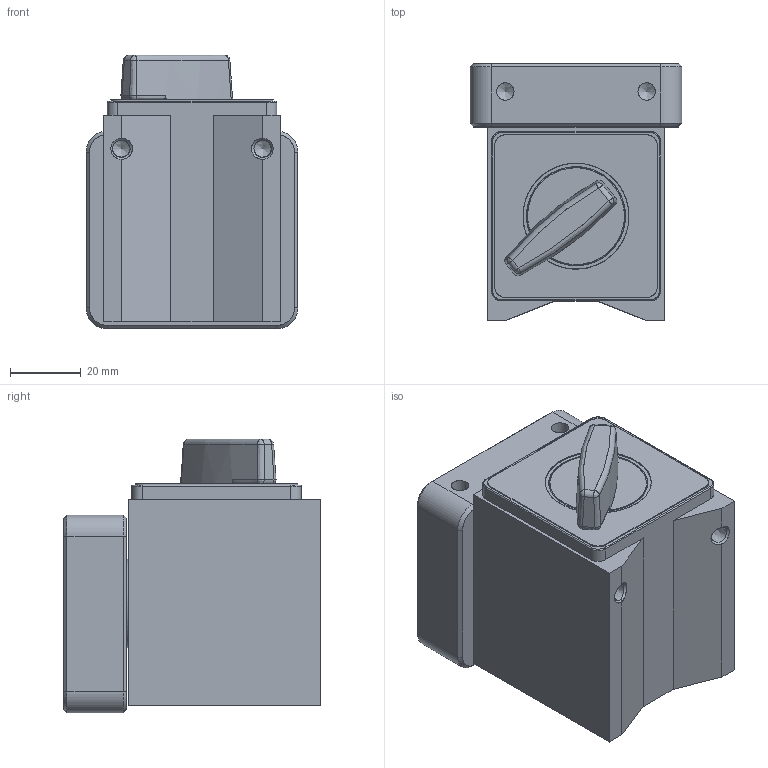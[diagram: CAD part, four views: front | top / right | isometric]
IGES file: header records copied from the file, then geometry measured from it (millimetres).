
Global section: file name: Y:\_LCPD Drawings\13.1 Lightweight Models\9936\LA-9936-0633 MAGNETIC BASE WITH ROTATING HEAD\LA-9936-0633-A MAGNETIC BASE WITH ROTATING HEAD.igs; native system: NX V1926; preprocessor: SIEMENS PLM Software NX 1942; date: 20210406.151107; units: millimetre
Bounding box: 60 x 72.8 x 77.5 mm (x, y, z)
Surface area: 31520 mm2 (no closed solid volume)
Topology: 0 solids, 0 shells, 136 faces, 914 edges, 875 vertices
Faces by surface type: bspline 136
